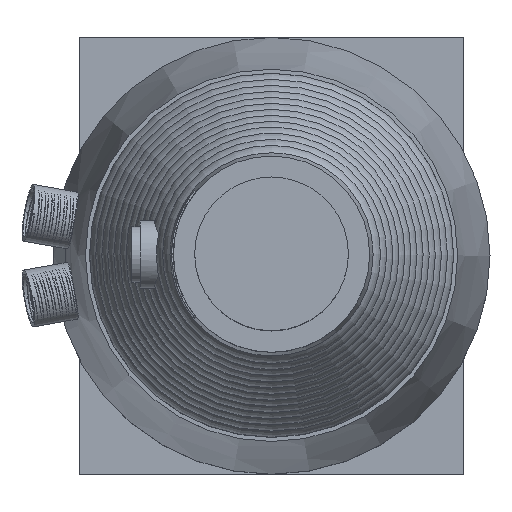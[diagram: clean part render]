
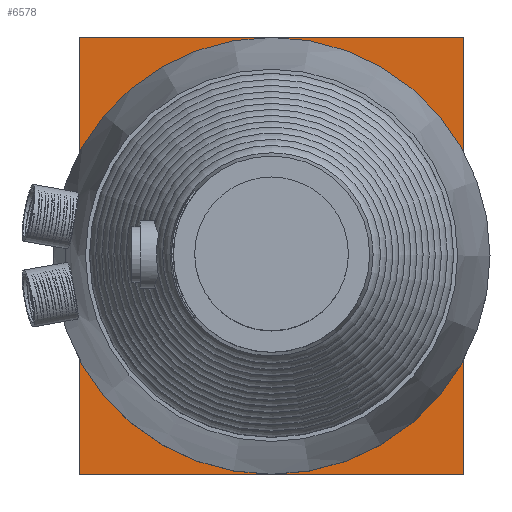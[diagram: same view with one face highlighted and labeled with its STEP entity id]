
A CAD part, top view. The second image highlights one B-rep face of the part: STEP entity #6578.
In plain terms, the highlighted planar face has unit normal (0, 0, 1).
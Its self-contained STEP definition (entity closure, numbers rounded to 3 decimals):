
#332=PLANE('',#6957);
#667=FACE_OUTER_BOUND('',#1070,.T.);
#1070=EDGE_LOOP('',(#5547,#5548,#5549,#5550));
#1999=LINE('',#49235,#2345);
#2000=LINE('',#49237,#2346);
#2001=LINE('',#49239,#2347);
#2002=LINE('',#49240,#2348);
#2345=VECTOR('',#7903,10.);
#2346=VECTOR('',#7904,10.);
#2347=VECTOR('',#7905,10.);
#2348=VECTOR('',#7906,10.);
#2938=VERTEX_POINT('',#49233);
#2939=VERTEX_POINT('',#49234);
#2940=VERTEX_POINT('',#49236);
#2941=VERTEX_POINT('',#49238);
#3821=EDGE_CURVE('',#2938,#2939,#1999,.T.);
#3822=EDGE_CURVE('',#2940,#2938,#2000,.T.);
#3823=EDGE_CURVE('',#2941,#2940,#2001,.T.);
#3824=EDGE_CURVE('',#2939,#2941,#2002,.T.);
#5547=ORIENTED_EDGE('',*,*,#3821,.F.);
#5548=ORIENTED_EDGE('',*,*,#3822,.F.);
#5549=ORIENTED_EDGE('',*,*,#3823,.F.);
#5550=ORIENTED_EDGE('',*,*,#3824,.F.);
#6578=ADVANCED_FACE('',(#667),#332,.T.);
#6957=AXIS2_PLACEMENT_3D('',#49232,#7901,#7902);
#7901=DIRECTION('center_axis',(0.,0.,
1.));
#7902=DIRECTION('ref_axis',(0.,-1.,0.));
#7903=DIRECTION('',(-1.,0.,0.));
#7904=DIRECTION('',(0.,-1.,0.));
#7905=DIRECTION('',(1.,0.,0.));
#7906=DIRECTION('',(0.,1.,0.));
#49232=CARTESIAN_POINT('Origin',(0.,0.,
-76.));
#49233=CARTESIAN_POINT('',(110.,-125.,-76.));
#49234=CARTESIAN_POINT('',(-110.,-125.,-76.));
#49235=CARTESIAN_POINT('',(110.,-125.,-76.));
#49236=CARTESIAN_POINT('',(110.,125.,-76.));
#49237=CARTESIAN_POINT('',(110.,125.,-76.));
#49238=CARTESIAN_POINT('',(-110.,125.,-76.));
#49239=CARTESIAN_POINT('',(-110.,125.,-76.));
#49240=CARTESIAN_POINT('',(-110.,-125.,-76.));
